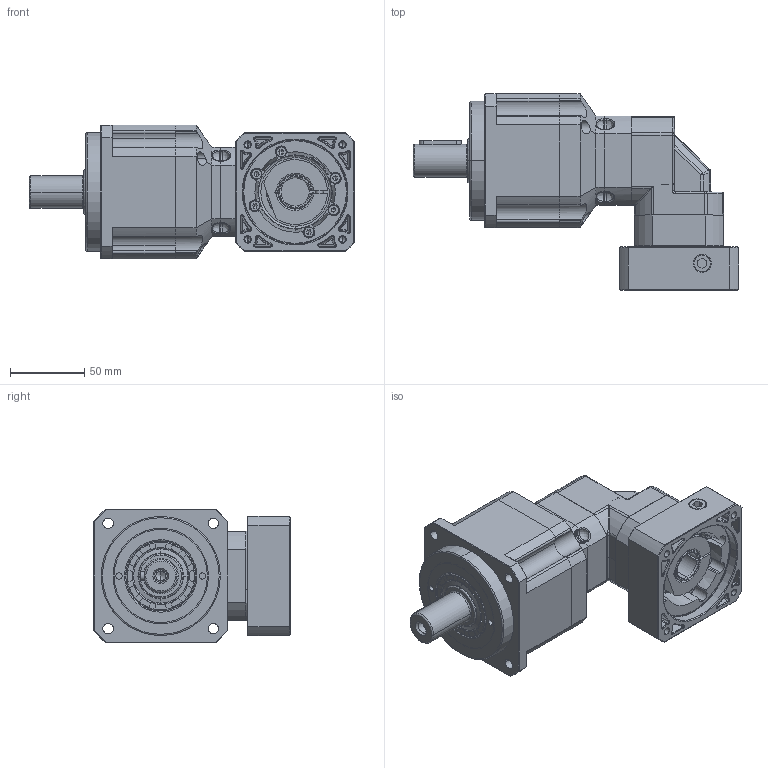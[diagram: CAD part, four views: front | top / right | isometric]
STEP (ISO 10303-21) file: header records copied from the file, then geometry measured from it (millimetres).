
FILE_DESCRIPTION (( 'STEP AP214' ), '1' );
FILE_NAME ('PAR090-L2-S2-P1 19-70-90-M6-42.5.STEP', '2025-02-15T05:57:57', ( '微软用户' ), ( '微软中国' ), 'SwSTEP 2.0', 'SolidWorks 2021', '' );
FILE_SCHEMA (( 'AUTOMOTIVE_DESIGN' ));
Length unit declared in the file: millimetre
Products named in the file (4): 2.PAR060F__________step_stp_stp.stp.STEP; PAR090D.STEP; PAR090M1-L2-S2-19-70-90-M6-42.5.STEP; PAR090-L2-S2-P1 19-70-90-M6-42.5
Assembly tree (4 placements, depth 2):
  PAR090-L2-S2-P1 19-70-90-M6-42.5
    PAR090M1-L2-S2-19-70-90-M6-42.5.STEP
    2.PAR060F__________step_stp_stp.stp.STEP
    PAR090D.STEP  x2
Bounding box: 218.5 x 132 x 90 mm (x, y, z)
Volume: 79241.2 mm3; surface area: 186916.2 mm2
Topology: 7 solids, 48 shells, 1730 faces, 4244 edges, 2635 vertices
Faces by surface type: cylinder 622, plane 479, bspline 361, cone 258, torus 10
Entity records: 85660 total; most frequent: CARTESIAN_POINT 48207, ORIENTED_EDGE 8090, DIRECTION 7197, EDGE_CURVE 4095, AXIS2_PLACEMENT_3D 2901, VERTEX_POINT 2589, EDGE_LOOP 1879, ADVANCED_FACE 1701
